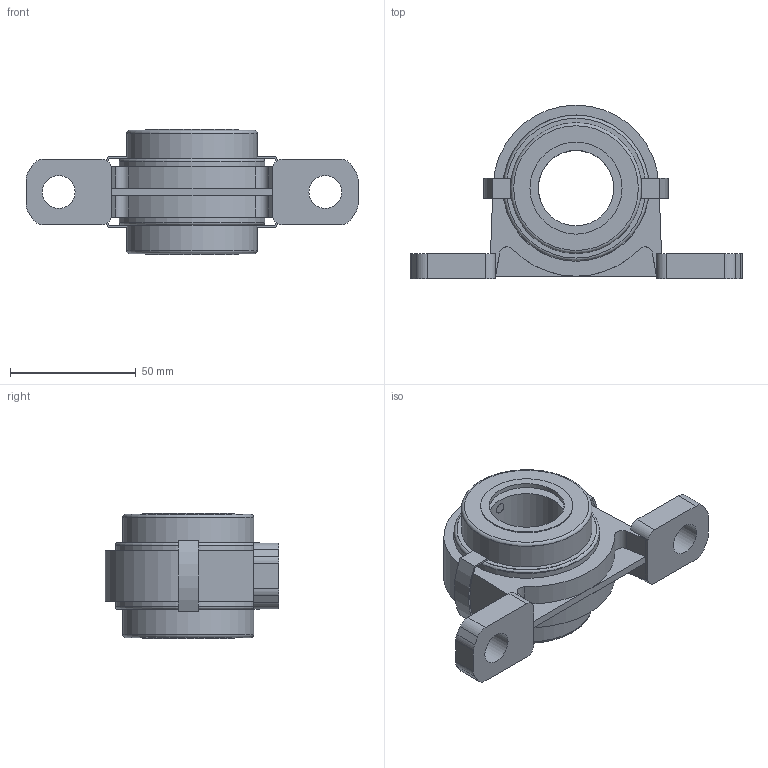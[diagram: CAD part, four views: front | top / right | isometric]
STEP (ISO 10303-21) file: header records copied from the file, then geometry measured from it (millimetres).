
FILE_DESCRIPTION((''),'2;1');
FILE_NAME('\\Ts-tgl068\J-Cad-D-BASE\00.3DCADデータ作成フォルダ\11.エコシリーズ\MUSP000\MUSP006C.stp','2014-11-12T09:34:32',('btec_1106_2'),(''),'Autodesk Inventor 2012','Autodesk Inventor 2012','');
FILE_SCHEMA(('AUTOMOTIVE_DESIGN { 1 0 10303 214 1 1 1 1 }'));
Length unit declared in the file: millimetre
Products named in the file (5): MUSP006C(E); SP006; U006; 06-7CP30; 6CLP
Assembly tree (6 placements, depth 2):
  MUSP006C(E)
    SP006
    U006
    06-7CP30  x2
    6CLP  x2
Bounding box: 132 x 69 x 49.8 mm (x, y, z)
Volume: 75098.8 mm3; surface area: 48783 mm2
Topology: 6 solids, 6 shells, 137 faces, 317 edges, 207 vertices
Faces by surface type: plane 74, cylinder 48, torus 8, cone 5, sphere 2
Full cylindrical faces by diameter (mm): 3.5 x1, 4.134 x1, 13 x2, 30 x3, 36.6 x4, 38 x1, 42 x1, 51.4 x2, 52 x2, 57.2 x2, 57.8 x2, 58.2 x2
Entity records: 3238 total; most frequent: CARTESIAN_POINT 637, DIRECTION 546, ORIENTED_EDGE 446, EDGE_CURVE 223, AXIS2_PLACEMENT_3D 210, VERTEX_POINT 161, EDGE_LOOP 158, VECTOR 126
